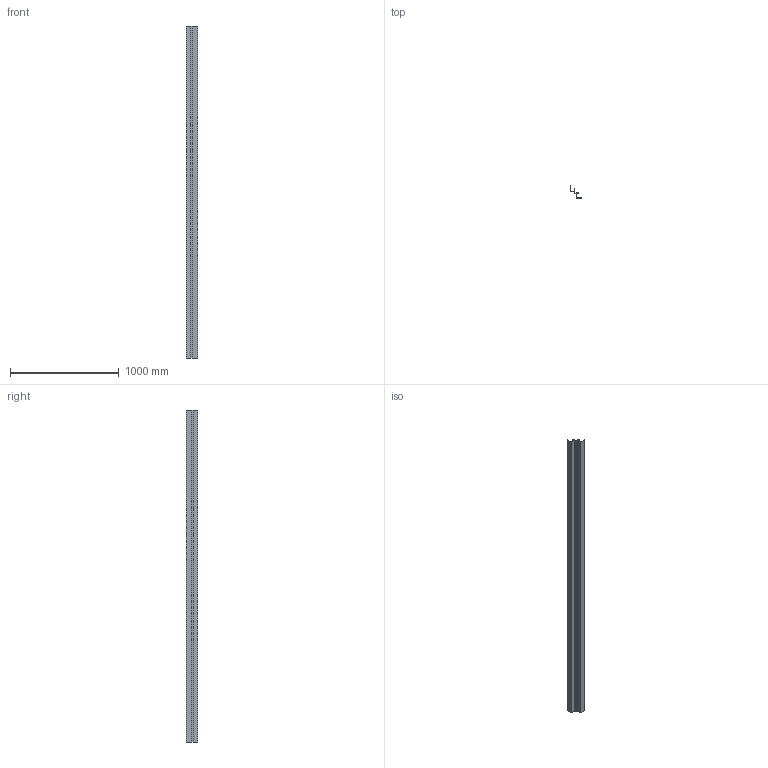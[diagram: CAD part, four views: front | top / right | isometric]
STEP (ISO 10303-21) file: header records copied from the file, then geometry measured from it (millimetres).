
FILE_DESCRIPTION (( 'STEP AP203' ), '1' );
FILE_NAME ('M22B.STEP', '2018-06-18T18:46:26', ( 'Michael Moliner' ), ( '' ), 'SwSTEP 2.0', 'SolidWorks 2018', '' );
FILE_SCHEMA (( 'CONFIG_CONTROL_DESIGN' ));
Length unit declared in the file: inch
Products named in the file (2): M22B
Bounding box: 108.92 x 108.92 x 3048 mm (x, y, z)
Volume: 470776.1 mm3; surface area: 1856854.8 mm2
Topology: 1 solids, 1 shells, 30 faces, 84 edges, 56 vertices
Faces by surface type: plane 20, cylinder 10
Entity records: 1125 total; most frequent: CARTESIAN_POINT 172, ORIENTED_EDGE 168, DIRECTION 168, EDGE_CURVE 84, LINE 64, VECTOR 64, VERTEX_POINT 56, AXIS2_PLACEMENT_3D 52
